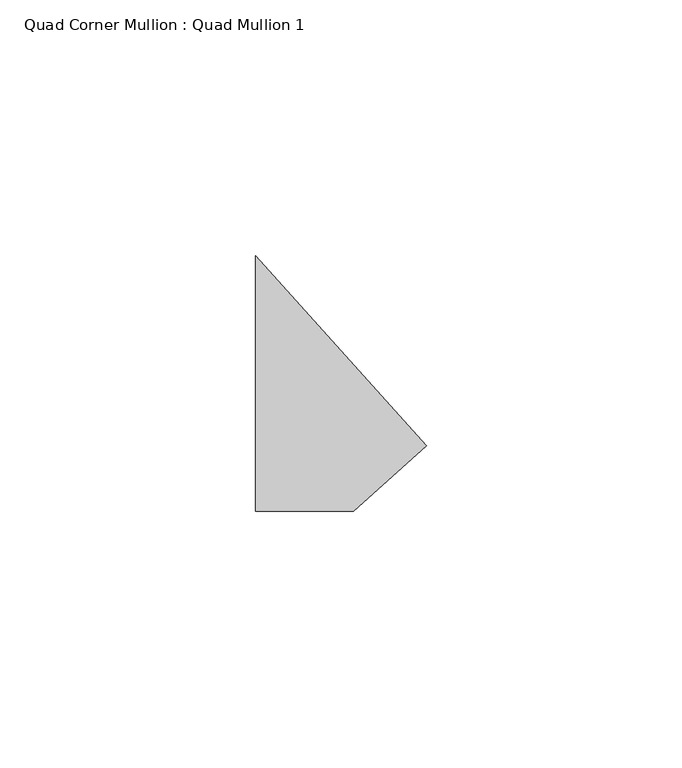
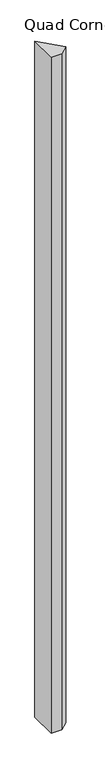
"""IFC4 building model written with IfcOpenShell, lengths in millimetres: member geometry, Quad Corner Mullion : Quad Mullion 1."""

from ifc_helpers import new_model, si_unit, frame, origin, place, context, project, spatial, polyline, outline, extrude, source, transform, mapped, element, save


def quad_corner_mullion_quad_mullion_1_222c89ca(model_context):
    return source(origin(), model_context, "Body", "SweptSolid", [
        extrude(outline(polyline([(23.8599294, -12.1572413), (9.5966009, -25.0), (-9.5966009, -25.0), (-9.5966009, 25.0), (23.8599294, -12.1572413)])), frame((0.0, 0.0, -1280.0), z_axis=(0.0, 0.0, 1.0), x_axis=(1.0, 0.0, 0.0)), (0.0, 0.0, 1.0), 1280.0),
    ])


if __name__ == "__main__":
    model = new_model("IFC4")
    model_context = context("Model", 3, world=origin())
    ifc_project = project(units=[si_unit("LENGTHUNIT", "METRE", prefix="MILLI")], contexts=[model_context])
    site = spatial("IfcSite", under=ifc_project)
    building = spatial("IfcBuilding", under=site)
    placement = place(None, origin())
    quad_corner_mullion_quad_mullion_1_shape = quad_corner_mullion_quad_mullion_1_222c89ca(model_context)
    element("IfcMember", 1, ObjectType="Quad Corner Mullion : Quad Mullion 1", at=placement, inside=building, context=model_context, shape_type="MappedRepresentation", body=[
        mapped(quad_corner_mullion_quad_mullion_1_shape, transform((0.0, 0.0, 0.0), x_axis=(1.0, 0.0, 0.0), y_axis=(0.0, 1.0, 0.0), z_axis=(0.0, 0.0, 1.0))),
    ])
    save(model, "model.ifc")
